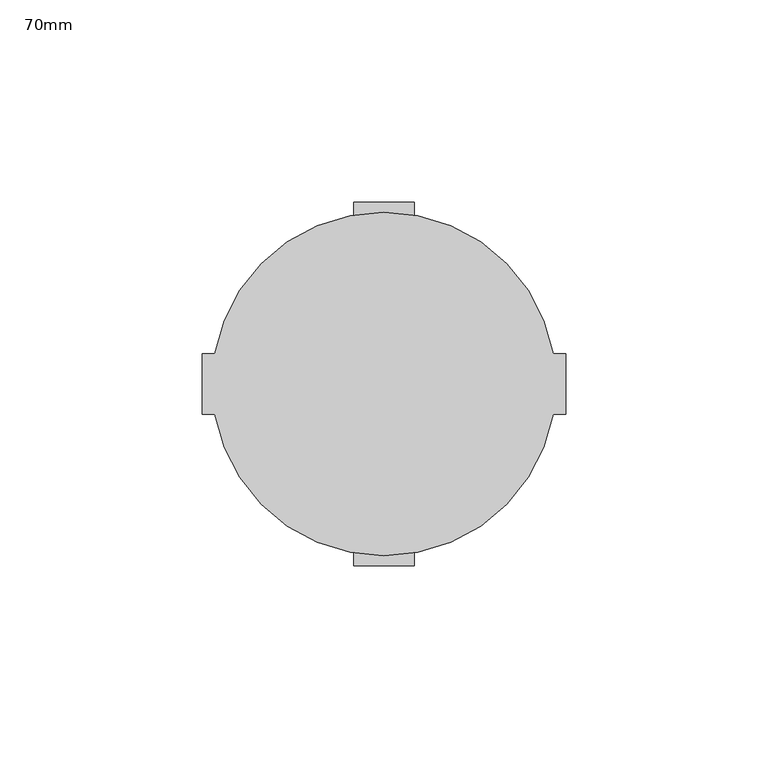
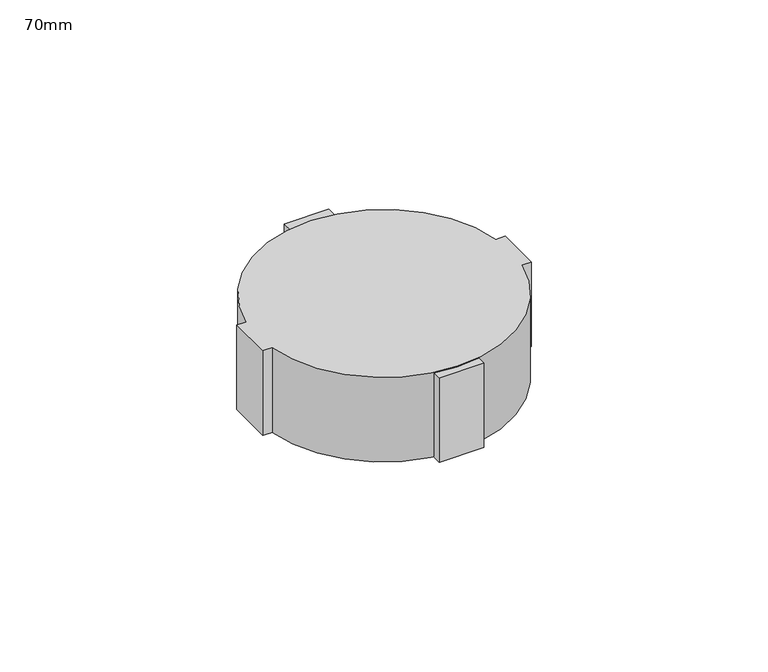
"""IFC4 building model written with IfcOpenShell, lengths in millimetres: pipe fitting geometry, AmancoWavin_Accesoriosdetubería_AS+_Abrazadera : 70mm."""

from ifc_helpers import new_model, si_unit, point, frame, origin, origin_2d, place, context, project, spatial, polyline, circle_curve, trimmed, segment, composite_curve, outline, extrude, source, transform, mapped, element, save


def pipe_fitting_70mm_64366088(model_context):
    return source(origin(), model_context, "Body", "SweptSolid", [
        extrude(outline(composite_curve([segment(polyline([(45.0, -7.5), (41.8330013, -7.5)]), True, "CONTINUOUS"), segment(trimmed(circle_curve(origin_2d(), 42.5), [point((41.8330013, -7.5))], [point((-41.8330013, -7.5))], False, "CARTESIAN"), True, "CONTINUOUS"), segment(polyline([(-41.8330013, -7.5), (-45.0, -7.5), (-45.0, 7.5), (-41.8330013, 7.5)]), True, "CONTINUOUS"), segment(trimmed(circle_curve(origin_2d(), 42.5), [point((-41.8330013, 7.5))], [point((41.8330013, 7.5))], False, "CARTESIAN"), True, "CONTINUOUS"), segment(polyline([(41.8330013, 7.5), (45.0, 7.5), (45.0, -7.5)]), True, "CONTINUOUS")], self_intersect=False)), frame((0.0, 0.0, -15.0), z_axis=(0.0, 0.0, 1.0), x_axis=(1.0, 0.0, 0.0)), (0.0, 0.0, 1.0), 30.0),
        extrude(outline(polyline([(-7.5, -45.0), (-7.5, -41.0), (7.5, -41.0), (7.5, -45.0), (-7.5, -45.0)])), frame((0.0, 0.0, -15.0), z_axis=(0.0, 0.0, 1.0), x_axis=(1.0, 0.0, 0.0)), (0.0, 0.0, 1.0), 30.0),
        extrude(outline(polyline([(-7.5, 45.0), (7.5, 45.0), (7.5, 41.0), (-7.5, 41.0), (-7.5, 45.0)])), frame((0.0, 0.0, -15.0), z_axis=(0.0, 0.0, 1.0), x_axis=(1.0, 0.0, 0.0)), (0.0, 0.0, 1.0), 30.0),
    ])


if __name__ == "__main__":
    model = new_model("IFC4")
    model_context = context("Model", 3, world=origin())
    ifc_project = project(units=[si_unit("LENGTHUNIT", "METRE", prefix="MILLI")], contexts=[model_context])
    site = spatial("IfcSite", under=ifc_project)
    building = spatial("IfcBuilding", under=site)
    placement = place(None, origin())
    pipe_fitting_70mm_shape = pipe_fitting_70mm_64366088(model_context)
    element("IfcPipeFitting", 1, ObjectType="AmancoWavin_Accesoriosdetubería_AS+_Abrazadera : 70mm", at=placement, inside=building, context=model_context, shape_type="MappedRepresentation", body=[
        mapped(pipe_fitting_70mm_shape, transform((0.0, 0.0, 0.0), x_axis=(1.0, 0.0, 0.0), y_axis=(0.0, 1.0, 0.0), z_axis=(0.0, 0.0, 1.0))),
    ])
    save(model, "model.ifc")
